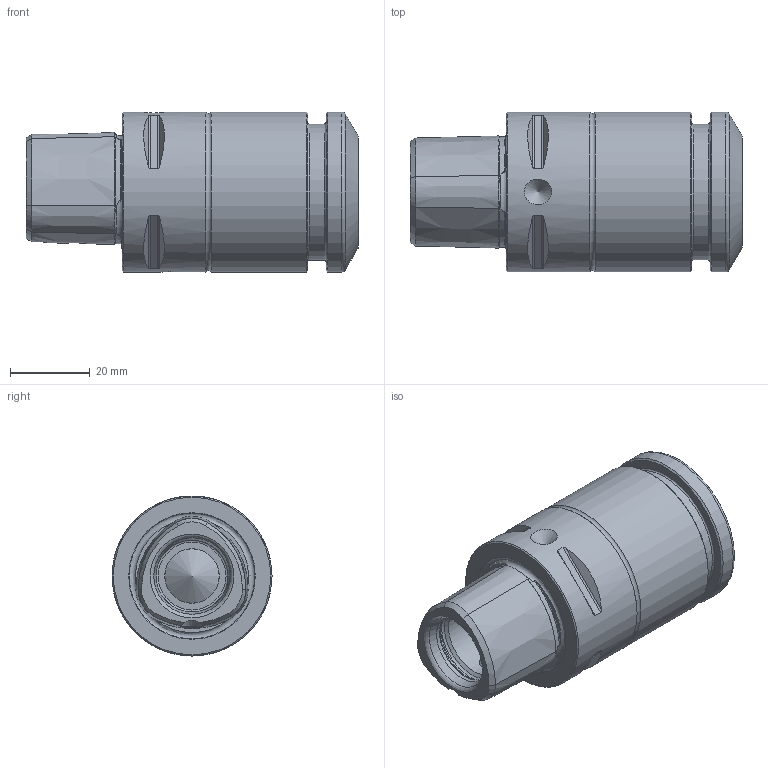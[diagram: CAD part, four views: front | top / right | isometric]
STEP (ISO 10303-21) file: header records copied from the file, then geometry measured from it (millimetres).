
FILE_DESCRIPTION(/* description */ ('Unknown'),/* implementation_level */ '2;1');
FILE_NAME(/* name */ '280472520',/* time_stamp */ '2022-09-16T08:30:54+02:00',/* author */ ('Unknown'),/* organization */ ('Unknown'),/* preprocessor_version */ 'ST-DEVELOPER v16.7',/* originating_system */ 'DEX',/* authorisation */ $);
FILE_SCHEMA (('AUTOMOTIVE_DESIGN {1 0 10303 214 3 1 1}'));
Length unit declared in the file: millimetre
Products named in the file (1): 0023734
Bounding box: 83 x 40 x 40 mm (x, y, z)
Volume: 81985.3 mm3; surface area: 23472.8 mm2
Topology: 2 solids, 2 shells, 115 faces, 280 edges, 175 vertices
Faces by surface type: cone 58, plane 24, cylinder 22, torus 11
Full cylindrical faces by diameter (mm): 4 x1, 4.6 x2, 13.6 x1, 18 x2, 20 x1, 25 x2, 34 x1, 40 x3
Entity records: 3175 total; most frequent: CARTESIAN_POINT 784, DIRECTION 484, ORIENTED_EDGE 434, AXIS2_PLACEMENT_3D 218, EDGE_CURVE 217, FACE_BOUND 171, EDGE_LOOP 167, VERTEX_POINT 158
